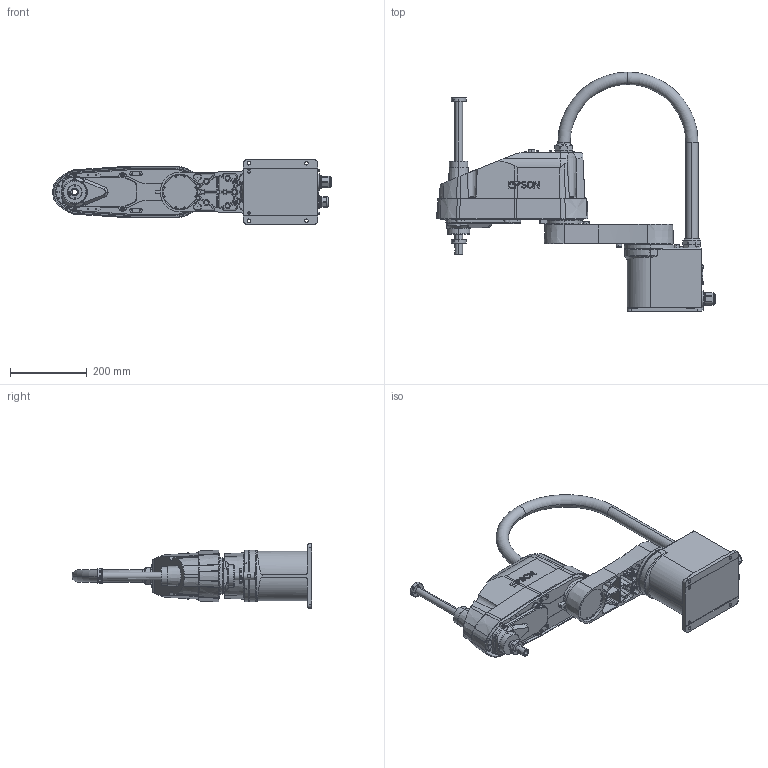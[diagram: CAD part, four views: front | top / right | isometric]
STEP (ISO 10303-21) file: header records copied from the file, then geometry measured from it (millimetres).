
FILE_DESCRIPTION (( 'STEP AP214' ), '1' );
FILE_NAME ('LA6-x502S.STEP', '2026-07-14T21:07:43', ( '' ), ( '' ), 'SwSTEP 2.0', 'SolidWorks 2020', '' );
FILE_SCHEMA (( 'AUTOMOTIVE_DESIGN' ));
Length unit declared in the file: millimetre
Products named in the file (6): LA6-A_J2_ARM; LA6-A_BASE; LA6-A_Z_AXIS; LA6-A502_CONDUIT; LA6-A502_J1_ARM; LA6-x502S
Assembly tree (5 placements, depth 2):
  LA6-x502S
    LA6-A_BASE
    LA6-A502_J1_ARM
    LA6-A_J2_ARM
    LA6-A_Z_AXIS
    LA6-A502_CONDUIT
Bounding box: 727.53 x 626 x 169 mm (x, y, z)
Volume: 12509906.5 mm3; surface area: 886114.1 mm2
Topology: 5 solids, 5 shells, 2359 faces, 6094 edges, 3931 vertices
Faces by surface type: plane 1295, cone 510, cylinder 456, torus 68, sphere 22, bspline 8
Entity records: 87726 total; most frequent: CARTESIAN_POINT 19601, DIRECTION 12464, ORIENTED_EDGE 12096, EDGE_CURVE 6048, AXIS2_PLACEMENT_3D 4386, VERTEX_POINT 3931, VECTOR 3692, LINE 3692
